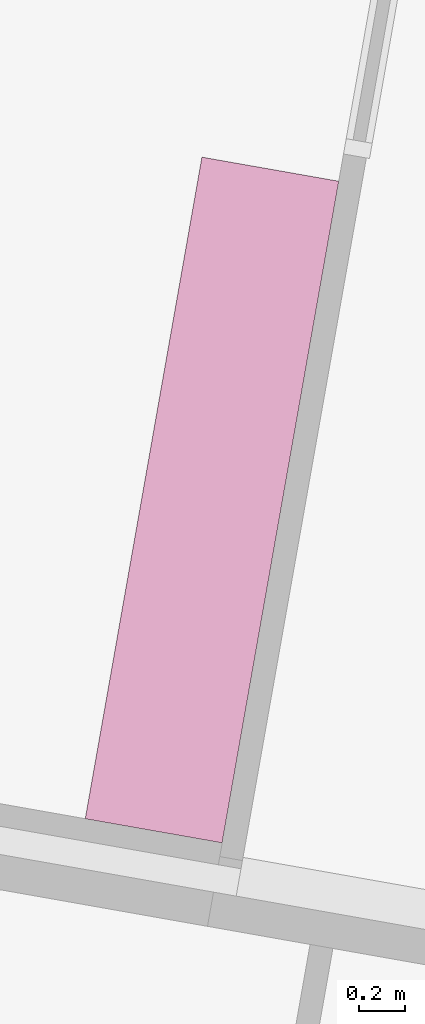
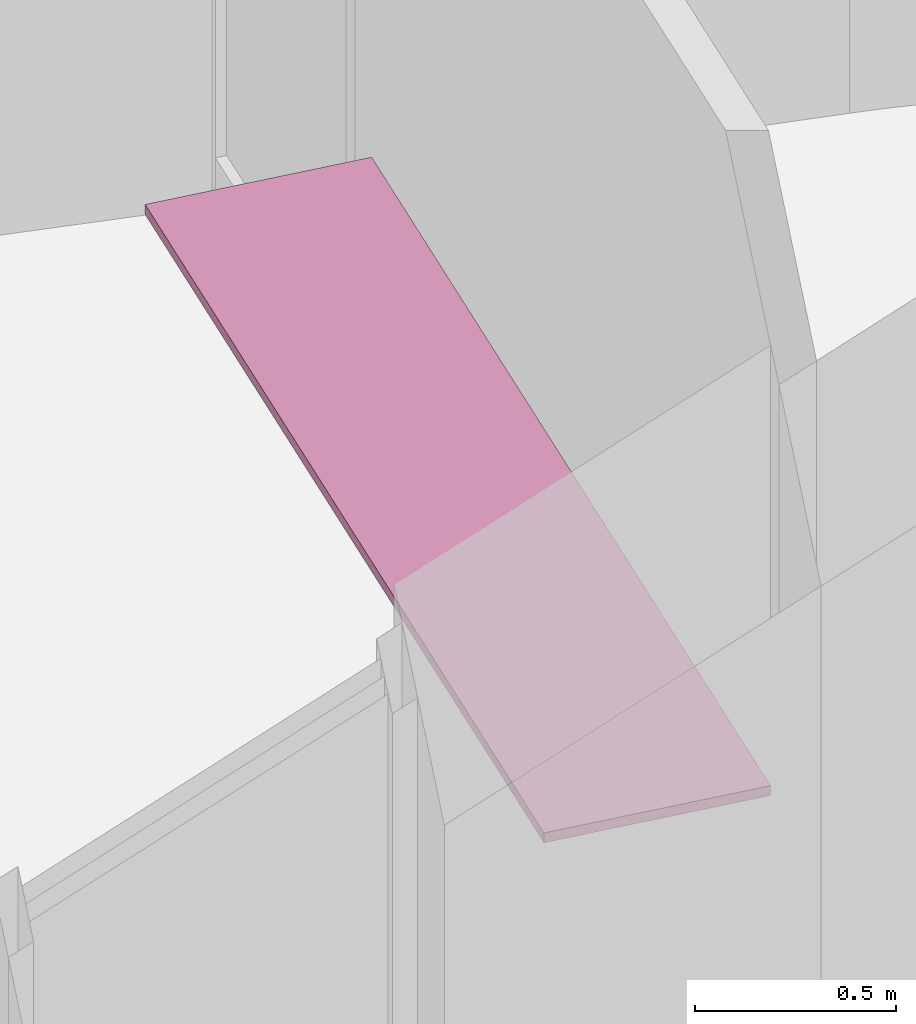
# One storey, part 20 of 21: 1 furnishing.
"""IFC2X3 building model written with IfcOpenShell, lengths in millimetres."""

import ifcopenshell
import ifcopenshell.guid

model = None  # the IFC model being written
_history = None  # IfcOwnerHistory: only IFC2X3 demands one
_inside = {}  # id of a spatial element -> (the spatial element, [elements in it])
_under = {}  # id of a project, library or spatial element -> (it, [spatial elements below it])
_declared = {}  # id of a project -> (the project, [libraries it declares])
_typed = {}  # id of a type object -> (the type object, [elements of that type])
_made_of = {}  # id of a material, layer set ... -> (it, [elements and type objects made of it])


def new_model(schema):
    """Start an empty IFC model of exactly this schema.

    Asked for "IFC4X3", IfcOpenShell would pick the latest addendum, in which some entities
    have other attributes; the version numbers below select the first issue.
    IFC2X3 requires an IfcOwnerHistory on every rooted entity: one is made here for all.
    """
    global model, _history
    if schema == "IFC4X3":
        model = ifcopenshell.file(schema_version=(4, 3, 0, 0))
    else:
        model = ifcopenshell.file(schema=schema)
    _inside.clear()
    _under.clear()
    _declared.clear()
    _typed.clear()
    _made_of.clear()
    _history = None
    if model.schema == "IFC2X3":
        org = make("IfcOrganization", Name="unknown")
        user = make(
            "IfcPersonAndOrganization",
            ThePerson=make("IfcPerson", FamilyName="unknown"),
            TheOrganization=org,
        )
        app = make(
            "IfcApplication",
            ApplicationDeveloper=org,
            Version="unknown",
            ApplicationFullName="unknown",
            ApplicationIdentifier="unknown",
        )
        _history = make(
            "IfcOwnerHistory",
            OwningUser=user,
            OwningApplication=app,
            ChangeAction="ADDED",
            CreationDate=0,
        )
    return model


def make(cls, **values):
    """One entity of the class cls with the attributes given. An attribute that is None is left unset."""
    return model.create_entity(
        cls, **{name: value for name, value in values.items() if value is not None}
    )


def entity(cls, *values):
    """Any entity or typed value of the class cls, its attributes in the order of the schema. None: left unset."""
    e = model.create_entity(cls)
    for i, value in enumerate(values):
        if value is not None:
            e[i] = value
    return e


def rooted(cls, **values):
    """An entity with a GlobalId (a new one), such as an element, a storey or a relation."""
    return make(cls, GlobalId=ifcopenshell.guid.new(), OwnerHistory=_history, **values)


def si_unit(unit_type, name, prefix=None):
    """IfcSIUnit, for example si_unit("LENGTHUNIT", "METRE", prefix="MILLI")."""
    return make("IfcSIUnit", UnitType=unit_type, Prefix=prefix, Name=name)


def converted_unit(unit_type, name, factor, base, dimensions=None, offset=None):
    """IfcConversionBasedUnit, such as the inch: factor (a typed value) times the base unit."""
    return make(
        "IfcConversionBasedUnit"
        if offset is None
        else "IfcConversionBasedUnitWithOffset",
        ConversionOffset=offset,
        Dimensions=None
        if dimensions is None
        else entity("IfcDimensionalExponents", *dimensions),
        UnitType=unit_type,
        Name=name,
        ConversionFactor=make(
            "IfcMeasureWithUnit", ValueComponent=factor, UnitComponent=base
        ),
    )


def derived_unit(unit_type, elements):
    """IfcDerivedUnit: a product of units, each with its exponent."""
    return make(
        "IfcDerivedUnit",
        Elements=[
            make("IfcDerivedUnitElement", Unit=unit, Exponent=power)
            for unit, power in elements
        ],
        UnitType=unit_type,
    )


def assignment(units):
    """IfcUnitAssignment: the units of a project."""
    return None if units is None else make("IfcUnitAssignment", Units=units)


def point(xyz):
    """IfcCartesianPoint."""
    return None if xyz is None else make("IfcCartesianPoint", Coordinates=xyz)


def direction(xyz):
    """IfcDirection."""
    return None if xyz is None else make("IfcDirection", DirectionRatios=xyz)


def frame(location, z_axis=None, x_axis=None):
    """IfcAxis2Placement3D, a coordinate frame: its origin and axes. An axis left out is left unset."""
    return make(
        "IfcAxis2Placement3D",
        Location=point(location),
        Axis=direction(z_axis),
        RefDirection=direction(x_axis),
    )


def frame_2d(location, x_axis=None):
    """IfcAxis2Placement2D, a coordinate frame in the plane: its origin and x axis."""
    return make(
        "IfcAxis2Placement2D", Location=point(location), RefDirection=direction(x_axis)
    )


def origin():
    """The frame at (0, 0, 0) with its axes left unset."""
    return frame((0.0, 0.0, 0.0))


def place(relative_to, where):
    """IfcLocalPlacement: puts the frame where relative to a parent placement (None: the world)."""
    return make(
        "IfcLocalPlacement", PlacementRelTo=relative_to, RelativePlacement=where
    )


def context(
    kind, dimensions, precision=None, world=None, true_north=None, identifier=None
):
    """IfcGeometricRepresentationContext, for example the 3D "Model" context."""
    return make(
        "IfcGeometricRepresentationContext",
        ContextIdentifier=identifier,
        ContextType=kind,
        CoordinateSpaceDimension=dimensions,
        Precision=precision,
        WorldCoordinateSystem=world,
        TrueNorth=true_north,
    )


def subcontext(parent, identifier, kind, view, scale=None):
    """IfcGeometricRepresentationSubContext, for example "Body" below "Model"."""
    return make(
        "IfcGeometricRepresentationSubContext",
        ContextIdentifier=identifier,
        ContextType=kind,
        ParentContext=parent,
        TargetScale=scale,
        TargetView=view,
    )


def project(units=None, contexts=None):
    """IfcProject with its units and contexts."""
    return rooted(
        "IfcProject",
        Name="project",
        RepresentationContexts=contexts,
        UnitsInContext=assignment(units),
    )


def spatial(cls, under=None, at=None, **own):
    """A site, building, storey or space (cls), placed at a placement, below another one or the project."""
    s = rooted(cls, ObjectPlacement=at, **own)
    if under is not None:
        _under.setdefault(under.id(), (under, []))[1].append(s)
    return s


def profile(cls, at=None, kind="AREA", **sizes):
    """A parametric profile (cls). Its sizes go by their IFC names, for example OverallWidth=200.0."""
    return make(cls, ProfileType=kind, Position=at, **sizes)


def rectangle(**sizes):
    """IfcRectangleProfileDef."""
    return profile("IfcRectangleProfileDef", **sizes)


def extrude(swept, where, along, depth):
    """IfcExtrudedAreaSolid: the profile swept, set in the frame where, extruded along a direction by depth."""
    return make(
        "IfcExtrudedAreaSolid",
        SweptArea=swept,
        Position=where,
        ExtrudedDirection=direction(along),
        Depth=depth,
    )


def shape(context_of_items, identifier, shape_type, items):
    """IfcShapeRepresentation: the items that make up one representation, for example the "Body"."""
    return make(
        "IfcShapeRepresentation",
        ContextOfItems=context_of_items,
        RepresentationIdentifier=identifier,
        RepresentationType=shape_type,
        Items=items,
    )


def source(mapping_origin, context_of_items, identifier, shape_type, items):
    """IfcRepresentationMap: a shape defined once, which mapped items show again and again."""
    return make(
        "IfcRepresentationMap",
        MappingOrigin=mapping_origin,
        MappedRepresentation=shape(context_of_items, identifier, shape_type, items),
    )


def transform(
    local_origin,
    x_axis=None,
    y_axis=None,
    z_axis=None,
    scale=None,
    scale2=None,
    scale3=None,
    uniform=True,
):
    """IfcCartesianTransformationOperator3D, or its non-uniform kind. x_axis, y_axis, z_axis: its Axis1, 2, 3."""
    if uniform:
        return make(
            "IfcCartesianTransformationOperator3D",
            Axis1=direction(x_axis),
            Axis2=direction(y_axis),
            LocalOrigin=point(local_origin),
            Scale=scale,
            Axis3=direction(z_axis),
        )
    return make(
        "IfcCartesianTransformationOperator3DnonUniform",
        Axis1=direction(x_axis),
        Axis2=direction(y_axis),
        LocalOrigin=point(local_origin),
        Scale=scale,
        Axis3=direction(z_axis),
        Scale2=scale2,
        Scale3=scale3,
    )


def mapped(mapping_source, mapping_target):
    """IfcMappedItem: shows the shape of a source again, moved by a transform."""
    return make(
        "IfcMappedItem", MappingSource=mapping_source, MappingTarget=mapping_target
    )


def made_of(thing, what):
    """Note that an element or type object is made of a material, layer set ...; save() writes the relation."""
    if what is not None:
        _made_of.setdefault(what.id(), (what, []))[1].append(thing)
    return thing


def type_object(cls, material=None, **own):
    """A type object (cls), such as IfcWallType, which elements share."""
    return made_of(rooted(cls, **own), material)


def type_shapes(of_type, sources):
    """Give a type object the sources (RepresentationMaps) that its elements show as mapped items."""
    of_type.RepresentationMaps = sources


def element(
    cls,
    number,
    at=None,
    inside=None,
    cuts=None,
    type_object=None,
    material=None,
    context=None,
    identifier="Body",
    shape_type=None,
    held_by="IfcProductDefinitionShape",
    body=None,
    shapes=None,
    **own,
):
    """One element of the class cls, such as IfcWall. Its Tag is "e" and its number.

    at: its placement. inside: the storey or other place that contains it. cuts: it is an
    opening in that element (IfcRelVoidsElement). A single representation is given by context,
    identifier, shape_type and body (its items); several are given by shapes. held_by: the class
    of the entity that holds the representations. save() writes the other relations.
    """
    e = rooted(cls, Tag="e%d" % number, ObjectPlacement=at, **own)
    if body is not None:
        shapes = [shape(context, identifier, shape_type, body)]
    if shapes is not None:
        e.Representation = make(held_by, Representations=shapes)
    if inside is not None:
        _inside.setdefault(inside.id(), (inside, []))[1].append(e)
    if cuts is not None:
        rooted(
            "IfcRelVoidsElement", RelatingBuildingElement=cuts, RelatedOpeningElement=e
        )
    if type_object is not None:
        _typed.setdefault(type_object.id(), (type_object, []))[1].append(e)
    return made_of(e, material)


def aggregate(whole, parts):
    """IfcRelAggregates: a whole, such as a stair, and the parts it consists of."""
    return rooted("IfcRelAggregates", RelatingObject=whole, RelatedObjects=parts)


def save(model, path):
    """Write the relations noted so far, then the file.

    IfcRelAggregates (storeys below a building ...), IfcRelContainedInSpatialStructure (elements
    in a storey), IfcRelDefinesByType, IfcRelAssociatesMaterial and IfcRelDeclares: one each for
    every whole, place, type object, material and project.
    """
    for whole, parts in _under.values():
        aggregate(whole, parts)
    for where, things in _inside.values():
        rooted(
            "IfcRelContainedInSpatialStructure",
            RelatedElements=things,
            RelatingStructure=where,
        )
    for kind, things in _typed.values():
        rooted("IfcRelDefinesByType", RelatedObjects=things, RelatingType=kind)
    for what, things in _made_of.values():
        rooted("IfcRelAssociatesMaterial", RelatedObjects=things, RelatingMaterial=what)
    for by, libraries in _declared.values():
        rooted("IfcRelDeclares", RelatingContext=by, RelatedDefinitions=libraries)
    model.write(path)


model = new_model("IFC2X3")

# Units and contexts
model_context = context("Model", 3, precision=0.01, world=origin(), true_north=direction((6.12303176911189e-17, 1.0)))
body_context = subcontext(model_context, "Body", "Model", "MODEL_VIEW")
ifc_project = project(units=[si_unit("LENGTHUNIT", "METRE", prefix="MILLI"), si_unit("AREAUNIT", "SQUARE_METRE"), si_unit("VOLUMEUNIT", "CUBIC_METRE"), converted_unit("PLANEANGLEUNIT", "DEGREE", entity("IfcRatioMeasure", 0.0174532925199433), si_unit("PLANEANGLEUNIT", "RADIAN"), dimensions=[0, 0, 0, 0, 0, 0, 0]), si_unit("MASSUNIT", "GRAM", prefix="KILO"), derived_unit("MASSDENSITYUNIT", [(si_unit("MASSUNIT", "GRAM", prefix="KILO"), 1), (si_unit("LENGTHUNIT", "METRE"), -3)]), si_unit("TIMEUNIT", "SECOND"), si_unit("FREQUENCYUNIT", "HERTZ"), si_unit("THERMODYNAMICTEMPERATUREUNIT", "DEGREE_CELSIUS"), derived_unit("THERMALTRANSMITTANCEUNIT", [(si_unit("MASSUNIT", "GRAM", prefix="KILO"), 1), (si_unit("THERMODYNAMICTEMPERATUREUNIT", "KELVIN"), -1), (si_unit("TIMEUNIT", "SECOND"), -3)]), derived_unit("VOLUMETRICFLOWRATEUNIT", [(si_unit("LENGTHUNIT", "METRE"), 3), (si_unit("TIMEUNIT", "SECOND"), -1)]), si_unit("ELECTRICCURRENTUNIT", "AMPERE"), si_unit("ELECTRICVOLTAGEUNIT", "VOLT"), si_unit("POWERUNIT", "WATT"), si_unit("FORCEUNIT", "NEWTON", prefix="KILO"), si_unit("ILLUMINANCEUNIT", "LUX"), si_unit("LUMINOUSFLUXUNIT", "LUMEN"), si_unit("LUMINOUSINTENSITYUNIT", "CANDELA"), derived_unit("USERDEFINED", [(si_unit("MASSUNIT", "GRAM", prefix="KILO"), -1), (si_unit("LENGTHUNIT", "METRE"), -2), (si_unit("TIMEUNIT", "SECOND"), 3), (si_unit("LUMINOUSFLUXUNIT", "LUMEN"), 1)]), derived_unit("LINEARVELOCITYUNIT", [(si_unit("LENGTHUNIT", "METRE"), 1), (si_unit("TIMEUNIT", "SECOND"), -1)]), si_unit("PRESSUREUNIT", "PASCAL"), derived_unit("USERDEFINED", [(si_unit("LENGTHUNIT", "METRE"), -2), (si_unit("MASSUNIT", "GRAM", prefix="KILO"), 1), (si_unit("TIMEUNIT", "SECOND"), -2)])], contexts=[model_context])

# Site, building, storey
site_placement = place(None, origin())
site = spatial("IfcSite", under=ifc_project, at=site_placement, Name="<Kadaster Gemeente>;<Kadaster nummer>;<Kadaster sectie>", CompositionType="ELEMENT")
building_placement = place(site_placement, origin())
building = spatial("IfcBuilding", under=site, at=building_placement, Name="JRCZ Middelburg", CompositionType="ELEMENT")
storey_placement = place(building_placement, origin())
storey = spatial("IfcBuildingStorey", under=building, at=storey_placement, Name="00 begane grond", CompositionType="ELEMENT", Elevation=0.0)

# Furnishing
system_furniture_element_type = type_object("IfcSystemFurnitureElementType", Name="blad_gen")
shared_shape = source(origin(), body_context, "Body", "SweptSolid", [
    extrude(rectangle(XDim=2901.99999999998, YDim=600.0, at=frame_2d((0.0, -2.8421709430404e-14), x_axis=(1.0, 0.0))), frame((40.9977531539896, 75.3372473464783, 870.0), z_axis=(0.0, 0.0, 1.0), x_axis=(-1.0, 0.0, 0.0)), (0.0, 0.0, 1.0), 29.9999999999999),
])
type_shapes(system_furniture_element_type, [shared_shape])
furnishing_placement = place(storey_placement, frame((27192.8387410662, 20410.9640082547, 0.0), z_axis=(0.0, 0.0, 1.0), x_axis=(0.173648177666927, 0.984807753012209, 0.0)))
element("IfcFurnishingElement", 1, at=furnishing_placement, inside=storey, type_object=system_furniture_element_type, Name="NLRS_73_FUS_UN_blad_generiek_generiek_ISR:blad_gen", ObjectType="NLRS_73_FUS_UN_blad_generiek_generiek_ISR:blad_gen", context=body_context, shape_type="MappedRepresentation", body=[
    mapped(shared_shape, transform((0.0, 0.0, 0.0), scale=1.0)),
])

save(model, "model.ifc")
